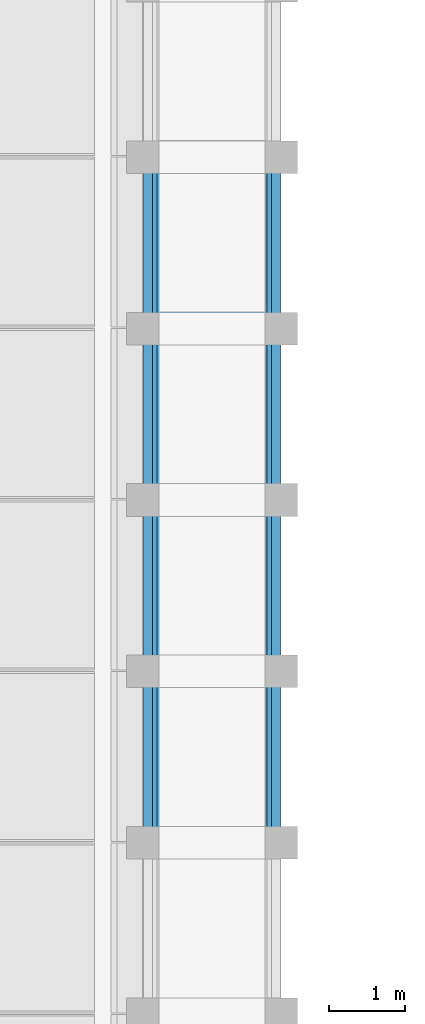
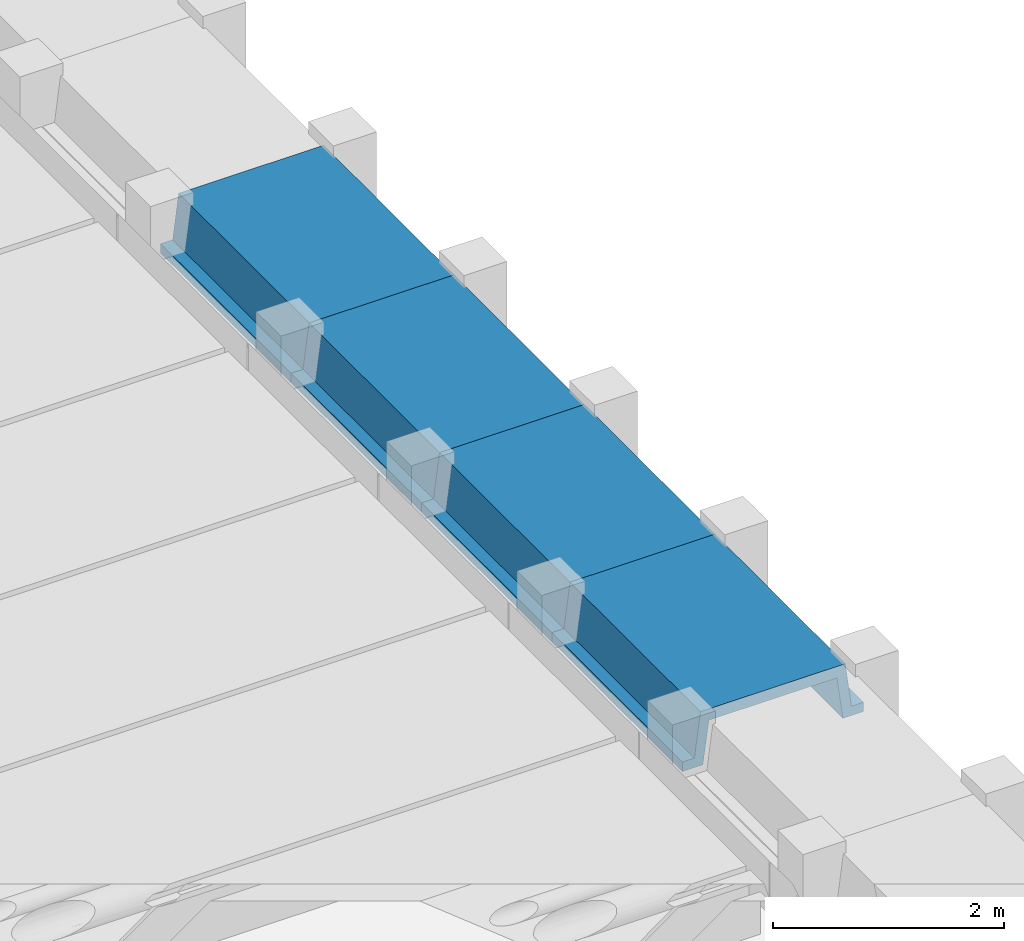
# One storey, part 5 of 18: 4 beams.
"""IFC2X3 building model written with IfcOpenShell, lengths in millimetres."""

import ifcopenshell
import ifcopenshell.guid

model = None  # the IFC model being written
_history = None  # IfcOwnerHistory: only IFC2X3 demands one
_inside = {}  # id of a spatial element -> (the spatial element, [elements in it])
_under = {}  # id of a project, library or spatial element -> (it, [spatial elements below it])
_declared = {}  # id of a project -> (the project, [libraries it declares])
_typed = {}  # id of a type object -> (the type object, [elements of that type])
_made_of = {}  # id of a material, layer set ... -> (it, [elements and type objects made of it])


def new_model(schema):
    """Start an empty IFC model of exactly this schema.

    Asked for "IFC4X3", IfcOpenShell would pick the latest addendum, in which some entities
    have other attributes; the version numbers below select the first issue.
    IFC2X3 requires an IfcOwnerHistory on every rooted entity: one is made here for all.
    """
    global model, _history
    if schema == "IFC4X3":
        model = ifcopenshell.file(schema_version=(4, 3, 0, 0))
    else:
        model = ifcopenshell.file(schema=schema)
    _inside.clear()
    _under.clear()
    _declared.clear()
    _typed.clear()
    _made_of.clear()
    _history = None
    if model.schema == "IFC2X3":
        org = make("IfcOrganization", Name="unknown")
        user = make(
            "IfcPersonAndOrganization",
            ThePerson=make("IfcPerson", FamilyName="unknown"),
            TheOrganization=org,
        )
        app = make(
            "IfcApplication",
            ApplicationDeveloper=org,
            Version="unknown",
            ApplicationFullName="unknown",
            ApplicationIdentifier="unknown",
        )
        _history = make(
            "IfcOwnerHistory",
            OwningUser=user,
            OwningApplication=app,
            ChangeAction="ADDED",
            CreationDate=0,
        )
    return model


def make(cls, **values):
    """One entity of the class cls with the attributes given. An attribute that is None is left unset."""
    return model.create_entity(
        cls, **{name: value for name, value in values.items() if value is not None}
    )


def entity(cls, *values):
    """Any entity or typed value of the class cls, its attributes in the order of the schema. None: left unset."""
    e = model.create_entity(cls)
    for i, value in enumerate(values):
        if value is not None:
            e[i] = value
    return e


def rooted(cls, **values):
    """An entity with a GlobalId (a new one), such as an element, a storey or a relation."""
    return make(cls, GlobalId=ifcopenshell.guid.new(), OwnerHistory=_history, **values)


def si_unit(unit_type, name, prefix=None):
    """IfcSIUnit, for example si_unit("LENGTHUNIT", "METRE", prefix="MILLI")."""
    return make("IfcSIUnit", UnitType=unit_type, Prefix=prefix, Name=name)


def converted_unit(unit_type, name, factor, base, dimensions=None, offset=None):
    """IfcConversionBasedUnit, such as the inch: factor (a typed value) times the base unit."""
    return make(
        "IfcConversionBasedUnit"
        if offset is None
        else "IfcConversionBasedUnitWithOffset",
        ConversionOffset=offset,
        Dimensions=None
        if dimensions is None
        else entity("IfcDimensionalExponents", *dimensions),
        UnitType=unit_type,
        Name=name,
        ConversionFactor=make(
            "IfcMeasureWithUnit", ValueComponent=factor, UnitComponent=base
        ),
    )


def derived_unit(unit_type, elements):
    """IfcDerivedUnit: a product of units, each with its exponent."""
    return make(
        "IfcDerivedUnit",
        Elements=[
            make("IfcDerivedUnitElement", Unit=unit, Exponent=power)
            for unit, power in elements
        ],
        UnitType=unit_type,
    )


def assignment(units):
    """IfcUnitAssignment: the units of a project."""
    return None if units is None else make("IfcUnitAssignment", Units=units)


def point(xyz):
    """IfcCartesianPoint."""
    return None if xyz is None else make("IfcCartesianPoint", Coordinates=xyz)


def direction(xyz):
    """IfcDirection."""
    return None if xyz is None else make("IfcDirection", DirectionRatios=xyz)


def frame(location, z_axis=None, x_axis=None):
    """IfcAxis2Placement3D, a coordinate frame: its origin and axes. An axis left out is left unset."""
    return make(
        "IfcAxis2Placement3D",
        Location=point(location),
        Axis=direction(z_axis),
        RefDirection=direction(x_axis),
    )


def origin():
    """The frame at (0, 0, 0) with its axes left unset."""
    return frame((0.0, 0.0, 0.0))


def place(relative_to, where):
    """IfcLocalPlacement: puts the frame where relative to a parent placement (None: the world)."""
    return make(
        "IfcLocalPlacement", PlacementRelTo=relative_to, RelativePlacement=where
    )


def context(
    kind, dimensions, precision=None, world=None, true_north=None, identifier=None
):
    """IfcGeometricRepresentationContext, for example the 3D "Model" context."""
    return make(
        "IfcGeometricRepresentationContext",
        ContextIdentifier=identifier,
        ContextType=kind,
        CoordinateSpaceDimension=dimensions,
        Precision=precision,
        WorldCoordinateSystem=world,
        TrueNorth=true_north,
    )


def subcontext(parent, identifier, kind, view, scale=None):
    """IfcGeometricRepresentationSubContext, for example "Body" below "Model"."""
    return make(
        "IfcGeometricRepresentationSubContext",
        ContextIdentifier=identifier,
        ContextType=kind,
        ParentContext=parent,
        TargetScale=scale,
        TargetView=view,
    )


def project(units=None, contexts=None):
    """IfcProject with its units and contexts."""
    return rooted(
        "IfcProject",
        Name="project",
        RepresentationContexts=contexts,
        UnitsInContext=assignment(units),
    )


def spatial(cls, under=None, at=None, **own):
    """A site, building, storey or space (cls), placed at a placement, below another one or the project."""
    s = rooted(cls, ObjectPlacement=at, **own)
    if under is not None:
        _under.setdefault(under.id(), (under, []))[1].append(s)
    return s


def polyline(points):
    """IfcPolyline through the points."""
    return make("IfcPolyline", Points=[point(p) for p in points])


def outline(outer, holes=None, kind="AREA"):
    """IfcArbitraryClosedProfileDef: a profile drawn as a closed curve; with holes, ...WithVoids."""
    if holes is None:
        return make("IfcArbitraryClosedProfileDef", ProfileType=kind, OuterCurve=outer)
    return make(
        "IfcArbitraryProfileDefWithVoids",
        ProfileType=kind,
        OuterCurve=outer,
        InnerCurves=holes,
    )


def extrude(swept, where, along, depth):
    """IfcExtrudedAreaSolid: the profile swept, set in the frame where, extruded along a direction by depth."""
    return make(
        "IfcExtrudedAreaSolid",
        SweptArea=swept,
        Position=where,
        ExtrudedDirection=direction(along),
        Depth=depth,
    )


def shape(context_of_items, identifier, shape_type, items):
    """IfcShapeRepresentation: the items that make up one representation, for example the "Body"."""
    return make(
        "IfcShapeRepresentation",
        ContextOfItems=context_of_items,
        RepresentationIdentifier=identifier,
        RepresentationType=shape_type,
        Items=items,
    )


def material(Name=None, Category=None):
    """IfcMaterial."""
    return make("IfcMaterial", Name=Name, Category=Category)


def made_of(thing, what):
    """Note that an element or type object is made of a material, layer set ...; save() writes the relation."""
    if what is not None:
        _made_of.setdefault(what.id(), (what, []))[1].append(thing)
    return thing


def type_object(cls, material=None, **own):
    """A type object (cls), such as IfcWallType, which elements share."""
    return made_of(rooted(cls, **own), material)


def element(
    cls,
    number,
    at=None,
    inside=None,
    cuts=None,
    type_object=None,
    material=None,
    context=None,
    identifier="Body",
    shape_type=None,
    held_by="IfcProductDefinitionShape",
    body=None,
    shapes=None,
    **own,
):
    """One element of the class cls, such as IfcWall. Its Tag is "e" and its number.

    at: its placement. inside: the storey or other place that contains it. cuts: it is an
    opening in that element (IfcRelVoidsElement). A single representation is given by context,
    identifier, shape_type and body (its items); several are given by shapes. held_by: the class
    of the entity that holds the representations. save() writes the other relations.
    """
    e = rooted(cls, Tag="e%d" % number, ObjectPlacement=at, **own)
    if body is not None:
        shapes = [shape(context, identifier, shape_type, body)]
    if shapes is not None:
        e.Representation = make(held_by, Representations=shapes)
    if inside is not None:
        _inside.setdefault(inside.id(), (inside, []))[1].append(e)
    if cuts is not None:
        rooted(
            "IfcRelVoidsElement", RelatingBuildingElement=cuts, RelatedOpeningElement=e
        )
    if type_object is not None:
        _typed.setdefault(type_object.id(), (type_object, []))[1].append(e)
    return made_of(e, material)


def aggregate(whole, parts):
    """IfcRelAggregates: a whole, such as a stair, and the parts it consists of."""
    return rooted("IfcRelAggregates", RelatingObject=whole, RelatedObjects=parts)


def save(model, path):
    """Write the relations noted so far, then the file.

    IfcRelAggregates (storeys below a building ...), IfcRelContainedInSpatialStructure (elements
    in a storey), IfcRelDefinesByType, IfcRelAssociatesMaterial and IfcRelDeclares: one each for
    every whole, place, type object, material and project.
    """
    for whole, parts in _under.values():
        aggregate(whole, parts)
    for where, things in _inside.values():
        rooted(
            "IfcRelContainedInSpatialStructure",
            RelatedElements=things,
            RelatingStructure=where,
        )
    for kind, things in _typed.values():
        rooted("IfcRelDefinesByType", RelatedObjects=things, RelatingType=kind)
    for what, things in _made_of.values():
        rooted("IfcRelAssociatesMaterial", RelatedObjects=things, RelatingMaterial=what)
    for by, libraries in _declared.values():
        rooted("IfcRelDeclares", RelatingContext=by, RelatedDefinitions=libraries)
    model.write(path)


model = new_model("IFC2X3")

# Units and contexts
model_context = context("Model", 3, precision=0.01, world=origin(), true_north=direction((6.12303176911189e-17, 1.0)))
body_context = subcontext(model_context, "Body", "Model", "MODEL_VIEW")
ifc_project = project(units=[si_unit("LENGTHUNIT", "METRE", prefix="MILLI"), si_unit("AREAUNIT", "SQUARE_METRE"), si_unit("VOLUMEUNIT", "CUBIC_METRE"), converted_unit("PLANEANGLEUNIT", "DEGREE", entity("IfcRatioMeasure", 0.0174532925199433), si_unit("PLANEANGLEUNIT", "RADIAN"), dimensions=[0, 0, 0, 0, 0, 0, 0]), si_unit("MASSUNIT", "GRAM", prefix="KILO"), derived_unit("MASSDENSITYUNIT", [(si_unit("MASSUNIT", "GRAM", prefix="KILO"), 1), (si_unit("LENGTHUNIT", "METRE"), -3)]), derived_unit("MOMENTOFINERTIAUNIT", [(si_unit("LENGTHUNIT", "METRE"), 4)]), si_unit("TIMEUNIT", "SECOND"), si_unit("FREQUENCYUNIT", "HERTZ"), si_unit("THERMODYNAMICTEMPERATUREUNIT", "DEGREE_CELSIUS"), derived_unit("THERMALTRANSMITTANCEUNIT", [(si_unit("MASSUNIT", "GRAM", prefix="KILO"), 1), (si_unit("THERMODYNAMICTEMPERATUREUNIT", "KELVIN"), -1), (si_unit("TIMEUNIT", "SECOND"), -3)]), derived_unit("VOLUMETRICFLOWRATEUNIT", [(si_unit("LENGTHUNIT", "METRE"), 3), (si_unit("TIMEUNIT", "SECOND"), -1)]), si_unit("ELECTRICCURRENTUNIT", "AMPERE"), si_unit("ELECTRICVOLTAGEUNIT", "VOLT"), si_unit("POWERUNIT", "WATT"), si_unit("FORCEUNIT", "NEWTON", prefix="KILO"), si_unit("ILLUMINANCEUNIT", "LUX"), si_unit("LUMINOUSFLUXUNIT", "LUMEN"), si_unit("LUMINOUSINTENSITYUNIT", "CANDELA"), derived_unit("USERDEFINED", [(si_unit("MASSUNIT", "GRAM", prefix="KILO"), -1), (si_unit("LENGTHUNIT", "METRE"), -2), (si_unit("TIMEUNIT", "SECOND"), 3), (si_unit("LUMINOUSFLUXUNIT", "LUMEN"), 1)]), derived_unit("LINEARVELOCITYUNIT", [(si_unit("LENGTHUNIT", "METRE"), 1), (si_unit("TIMEUNIT", "SECOND"), -1)]), si_unit("PRESSUREUNIT", "PASCAL"), derived_unit("USERDEFINED", [(si_unit("LENGTHUNIT", "METRE"), -2), (si_unit("MASSUNIT", "GRAM", prefix="KILO"), 1), (si_unit("TIMEUNIT", "SECOND"), -2)]), derived_unit("LINEARFORCEUNIT", [(si_unit("MASSUNIT", "GRAM", prefix="KILO"), 1), (si_unit("LENGTHUNIT", "METRE"), 1), (si_unit("TIMEUNIT", "SECOND"), -2), (si_unit("LENGTHUNIT", "METRE"), -1)]), derived_unit("PLANARFORCEUNIT", [(si_unit("MASSUNIT", "GRAM", prefix="KILO"), 1), (si_unit("LENGTHUNIT", "METRE"), 1), (si_unit("TIMEUNIT", "SECOND"), -2), (si_unit("LENGTHUNIT", "METRE"), -2)])], contexts=[model_context])

# Site, building, storey
site_placement = place(None, frame((10627.5135316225, 21939.0796949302, 0.0)))
site = spatial("IfcSite", under=ifc_project, at=site_placement, Name="Default", CompositionType="ELEMENT")
building_placement = place(site_placement, origin())
building = spatial("IfcBuilding", under=site, at=building_placement, CompositionType="ELEMENT")
storey_placement = place(building_placement, frame((0.0, 0.0, 3660.0)))
storey = spatial("IfcBuildingStorey", under=building, at=storey_placement, Name="R+1", CompositionType="ELEMENT", Elevation=3660.0)

# Beams
ifc_material = material(Name="Concrete, Precast Smooth, Light Grey")
beam_type = type_object("IfcBeamType", Name="Poutre petite:Poutre petite", PredefinedType="NOTDEFINED")
for number, where, z_axis, x_axis, name in (
    (1, (667.48646837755, 660.920305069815, 3530.0), (0.0, 0.0, 1.0), (0.0, 1.0, 0.0), "Poutre petite:Poutre petite"),
    (2, (667.48646837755, -1599.07969493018, 3530.0), (0.0, 0.0, 1.0), (0.0, 1.0, 0.0), "Poutre petite:Poutre petite"),
    (3, (667.48646837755, -3859.07969493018, 3530.0), (0.0, 0.0, 1.0), (0.0, 1.0, 0.0), "Poutre petite:Poutre petite"),
    (4, (667.48646837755, -6119.07969493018, 3530.0), (0.0, 0.0, 1.0), (0.0, 1.0, 0.0), "Poutre petite:Poutre petite"),
):
    element("IfcBeam", number, at=place(storey_placement, frame(where, z_axis=z_axis, x_axis=x_axis)), inside=storey, type_object=beam_type, material=ifc_material, Name=name, ObjectType="Poutre petite:Poutre petite", context=body_context, shape_type="SweptSolid", body=[
        extrude(outline(polyline([(103.333217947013, -905.013684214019), (203.333564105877, -905.013684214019), (203.333564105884, -700.013730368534), (-246.666782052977, -640.013684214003), (-246.666782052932, 640.013497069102), (203.333564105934, 700.013543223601), (203.333564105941, 905.014058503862), (103.333217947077, 905.014058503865), (103.333217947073, 785.01349706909), (-366.666782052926, 725.013497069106), (-366.666782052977, -725.013684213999), (103.333217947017, -785.013684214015), (103.333217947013, -905.013684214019)])), frame((0.0, -0.000187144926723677, -366.666782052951), z_axis=(1.0, 0.0, 0.0), x_axis=(0.0, 0.0, -1.0)), (0.0, 0.0, 1.0), 2260.0),
    ])

save(model, "model.ifc")
